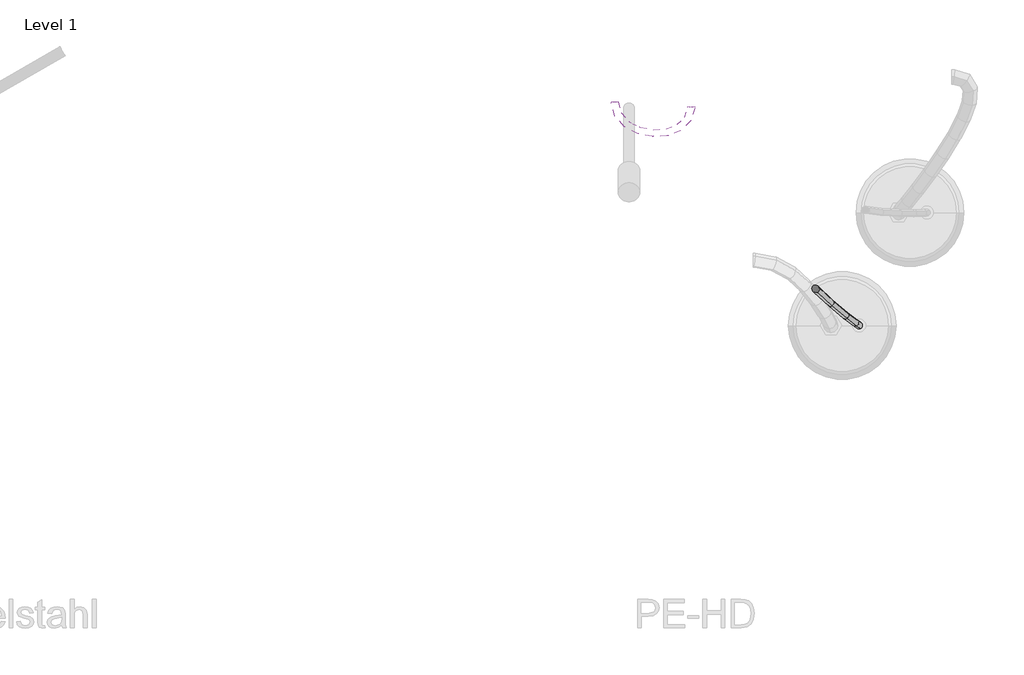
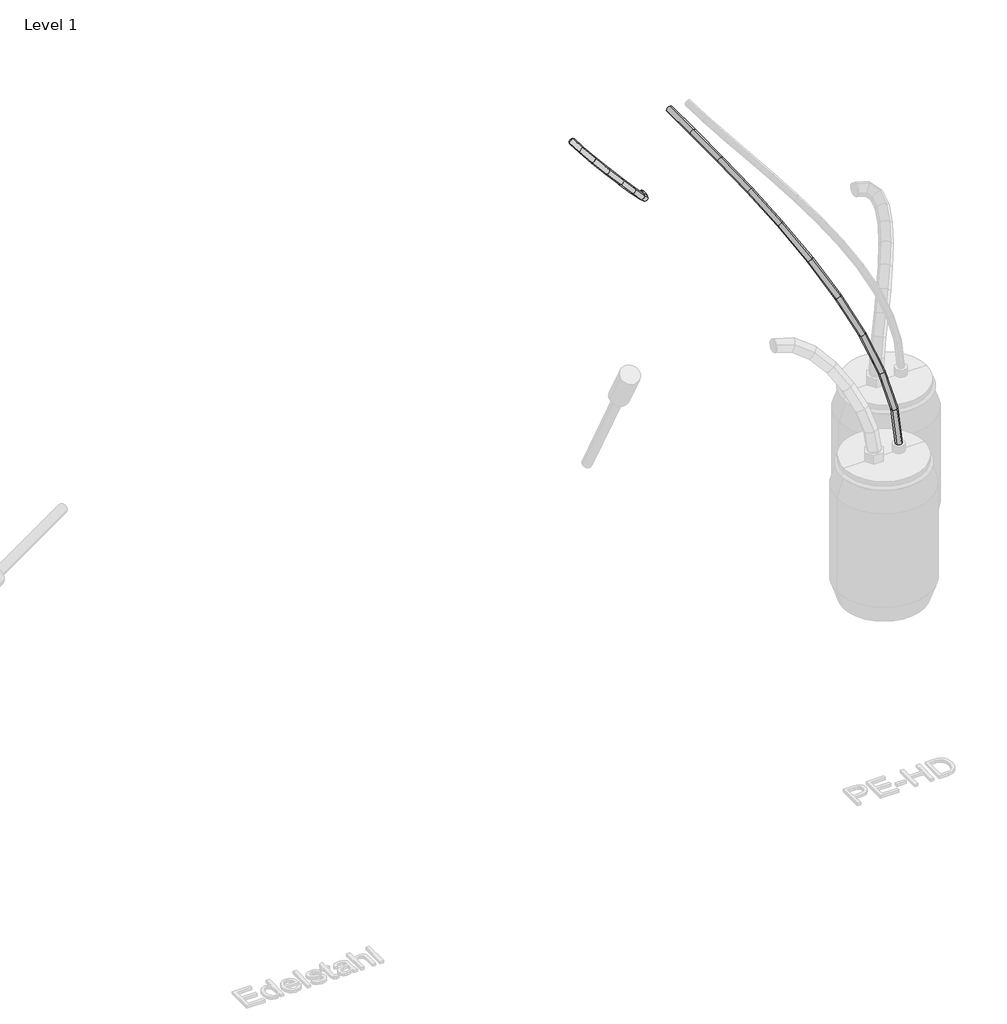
# One storey, part 2 of 6: 2 pipe segments.
"""IFC4 building model written with IfcOpenShell, lengths in millimetres."""

import ifcopenshell
import ifcopenshell.guid

model = None  # the IFC model being written
_history = None  # IfcOwnerHistory: only IFC2X3 demands one
_inside = {}  # id of a spatial element -> (the spatial element, [elements in it])
_under = {}  # id of a project, library or spatial element -> (it, [spatial elements below it])
_declared = {}  # id of a project -> (the project, [libraries it declares])
_typed = {}  # id of a type object -> (the type object, [elements of that type])
_made_of = {}  # id of a material, layer set ... -> (it, [elements and type objects made of it])


def new_model(schema):
    """Start an empty IFC model of exactly this schema.

    Asked for "IFC4X3", IfcOpenShell would pick the latest addendum, in which some entities
    have other attributes; the version numbers below select the first issue.
    IFC2X3 requires an IfcOwnerHistory on every rooted entity: one is made here for all.
    """
    global model, _history
    if schema == "IFC4X3":
        model = ifcopenshell.file(schema_version=(4, 3, 0, 0))
    else:
        model = ifcopenshell.file(schema=schema)
    _inside.clear()
    _under.clear()
    _declared.clear()
    _typed.clear()
    _made_of.clear()
    _history = None
    if model.schema == "IFC2X3":
        org = make("IfcOrganization", Name="unknown")
        user = make(
            "IfcPersonAndOrganization",
            ThePerson=make("IfcPerson", FamilyName="unknown"),
            TheOrganization=org,
        )
        app = make(
            "IfcApplication",
            ApplicationDeveloper=org,
            Version="unknown",
            ApplicationFullName="unknown",
            ApplicationIdentifier="unknown",
        )
        _history = make(
            "IfcOwnerHistory",
            OwningUser=user,
            OwningApplication=app,
            ChangeAction="ADDED",
            CreationDate=0,
        )
    return model


def make(cls, **values):
    """One entity of the class cls with the attributes given. An attribute that is None is left unset."""
    return model.create_entity(
        cls, **{name: value for name, value in values.items() if value is not None}
    )


def rooted(cls, **values):
    """An entity with a GlobalId (a new one), such as an element, a storey or a relation."""
    return make(cls, GlobalId=ifcopenshell.guid.new(), OwnerHistory=_history, **values)


def si_unit(unit_type, name, prefix=None):
    """IfcSIUnit, for example si_unit("LENGTHUNIT", "METRE", prefix="MILLI")."""
    return make("IfcSIUnit", UnitType=unit_type, Prefix=prefix, Name=name)


def assignment(units):
    """IfcUnitAssignment: the units of a project."""
    return None if units is None else make("IfcUnitAssignment", Units=units)


def point(xyz):
    """IfcCartesianPoint."""
    return None if xyz is None else make("IfcCartesianPoint", Coordinates=xyz)


def direction(xyz):
    """IfcDirection."""
    return None if xyz is None else make("IfcDirection", DirectionRatios=xyz)


def frame(location, z_axis=None, x_axis=None):
    """IfcAxis2Placement3D, a coordinate frame: its origin and axes. An axis left out is left unset."""
    return make(
        "IfcAxis2Placement3D",
        Location=point(location),
        Axis=direction(z_axis),
        RefDirection=direction(x_axis),
    )


def origin():
    """The frame at (0, 0, 0) with its axes left unset."""
    return frame((0.0, 0.0, 0.0))


def place(relative_to, where):
    """IfcLocalPlacement: puts the frame where relative to a parent placement (None: the world)."""
    return make(
        "IfcLocalPlacement", PlacementRelTo=relative_to, RelativePlacement=where
    )


def context(
    kind, dimensions, precision=None, world=None, true_north=None, identifier=None
):
    """IfcGeometricRepresentationContext, for example the 3D "Model" context."""
    return make(
        "IfcGeometricRepresentationContext",
        ContextIdentifier=identifier,
        ContextType=kind,
        CoordinateSpaceDimension=dimensions,
        Precision=precision,
        WorldCoordinateSystem=world,
        TrueNorth=true_north,
    )


def project(units=None, contexts=None):
    """IfcProject with its units and contexts."""
    return rooted(
        "IfcProject",
        Name="project",
        RepresentationContexts=contexts,
        UnitsInContext=assignment(units),
    )


def spatial(cls, under=None, at=None, **own):
    """A site, building, storey or space (cls), placed at a placement, below another one or the project."""
    s = rooted(cls, ObjectPlacement=at, **own)
    if under is not None:
        _under.setdefault(under.id(), (under, []))[1].append(s)
    return s


def circle_curve(where, radius):
    """IfcCircle in the frame where."""
    return make("IfcCircle", Position=where, Radius=radius)


def ellipse_curve(where, semi_axis1, semi_axis2):
    """IfcEllipse in the frame where."""
    return make(
        "IfcEllipse", Position=where, SemiAxis1=semi_axis1, SemiAxis2=semi_axis2
    )


def shape(context_of_items, identifier, shape_type, items):
    """IfcShapeRepresentation: the items that make up one representation, for example the "Body"."""
    return make(
        "IfcShapeRepresentation",
        ContextOfItems=context_of_items,
        RepresentationIdentifier=identifier,
        RepresentationType=shape_type,
        Items=items,
    )


def made_of(thing, what):
    """Note that an element or type object is made of a material, layer set ...; save() writes the relation."""
    if what is not None:
        _made_of.setdefault(what.id(), (what, []))[1].append(thing)
    return thing


def element(
    cls,
    number,
    at=None,
    inside=None,
    cuts=None,
    type_object=None,
    material=None,
    context=None,
    identifier="Body",
    shape_type=None,
    held_by="IfcProductDefinitionShape",
    body=None,
    shapes=None,
    **own,
):
    """One element of the class cls, such as IfcWall. Its Tag is "e" and its number.

    at: its placement. inside: the storey or other place that contains it. cuts: it is an
    opening in that element (IfcRelVoidsElement). A single representation is given by context,
    identifier, shape_type and body (its items); several are given by shapes. held_by: the class
    of the entity that holds the representations. save() writes the other relations.
    """
    e = rooted(cls, Tag="e%d" % number, ObjectPlacement=at, **own)
    if body is not None:
        shapes = [shape(context, identifier, shape_type, body)]
    if shapes is not None:
        e.Representation = make(held_by, Representations=shapes)
    if inside is not None:
        _inside.setdefault(inside.id(), (inside, []))[1].append(e)
    if cuts is not None:
        rooted(
            "IfcRelVoidsElement", RelatingBuildingElement=cuts, RelatedOpeningElement=e
        )
    if type_object is not None:
        _typed.setdefault(type_object.id(), (type_object, []))[1].append(e)
    return made_of(e, material)


def aggregate(whole, parts):
    """IfcRelAggregates: a whole, such as a stair, and the parts it consists of."""
    return rooted("IfcRelAggregates", RelatingObject=whole, RelatedObjects=parts)


def save(model, path):
    """Write the relations noted so far, then the file.

    IfcRelAggregates (storeys below a building ...), IfcRelContainedInSpatialStructure (elements
    in a storey), IfcRelDefinesByType, IfcRelAssociatesMaterial and IfcRelDeclares: one each for
    every whole, place, type object, material and project.
    """
    for whole, parts in _under.values():
        aggregate(whole, parts)
    for where, things in _inside.values():
        rooted(
            "IfcRelContainedInSpatialStructure",
            RelatedElements=things,
            RelatingStructure=where,
        )
    for kind, things in _typed.values():
        rooted("IfcRelDefinesByType", RelatedObjects=things, RelatingType=kind)
    for what, things in _made_of.values():
        rooted("IfcRelAssociatesMaterial", RelatedObjects=things, RelatingMaterial=what)
    for by, libraries in _declared.values():
        rooted("IfcRelDeclares", RelatingContext=by, RelatedDefinitions=libraries)
    model.write(path)


def plane_surface(at):
    """IfcPlane: the flat surface through the origin of the frame at, square to its z axis."""
    return make("IfcPlane", Position=at)


def cylinder_surface(at, radius):
    """IfcCylindricalSurface: all points at the distance radius from the z axis of the frame at."""
    return make("IfcCylindricalSurface", Position=at, Radius=radius)


def advanced_brep(points, edges, surfaces, faces):
    """IfcAdvancedBrep: a solid bounded by faces that lie on surfaces and meet in shared edges.

    An edge is (start, end): straight between two places in points (the first is 0);
    or (start, end, curve); or (start, end, curve, False) where it runs against its curve.
    A face is (place in surfaces, loops), or (place, loops, False) where it looks against
    its surface's normal. A loop lists edges by number (the first is 1), with a minus sign
    where the edge is run from its end to its start. The first loop is the outer one.
    """
    corners = [point(p) for p in points]
    vertices = [make("IfcVertexPoint", VertexGeometry=c) for c in corners]
    made = []
    for start, end, *more in edges:
        made.append(
            make(
                "IfcEdgeCurve",
                EdgeStart=vertices[start],
                EdgeEnd=vertices[end],
                EdgeGeometry=more[0] if more else make("IfcPolyline", Points=[corners[start], corners[end]]),
                SameSense=more[1] if len(more) > 1 else True,
            )
        )
    hull = []
    for where, loops, *sense in faces:
        bounds = []
        for j, loop in enumerate(loops):
            ring = [make("IfcOrientedEdge", EdgeElement=made[abs(k) - 1], Orientation=k > 0) for k in loop]
            bounds.append(
                make(
                    "IfcFaceOuterBound" if j == 0 else "IfcFaceBound",
                    Bound=make("IfcEdgeLoop", EdgeList=ring),
                    Orientation=True,
                )
            )
        hull.append(make("IfcAdvancedFace", Bounds=bounds, FaceSurface=surfaces[where], SameSense=sense[0] if sense else True))
    return make("IfcAdvancedBrep", Outer=make("IfcClosedShell", CfsFaces=hull))


model = new_model("IFC4")

# Units and contexts
model_context = context("Model", 3, world=origin())
ifc_project = project(units=[si_unit("LENGTHUNIT", "METRE", prefix="MILLI")], contexts=[model_context])

# Site, building, storey
site = spatial("IfcSite", under=ifc_project)
building = spatial("IfcBuilding", under=site)
storey = spatial("IfcBuildingStorey", under=building, Name="Level 1", Elevation=0.0)

# Pipe segments
placement = place(None, origin())
element("IfcPipeSegment", 1, ObjectType="Flex - Round", at=placement, inside=storey, context=model_context, shape_type="AdvancedBrep", body=[
    advanced_brep(
    [(2197.5, 3245.0, 1433.0), (2185.0, 3245.0, 1420.5), (2172.5, 3245.0, 1433.0), (2185.0, 3245.0, 1445.5), (2197.5, 3239.8098259, 1433.0), (2185.0, 3239.5752926, 1420.5), (2172.5, 3243.2327444, 1433.0), (2185.0, 3243.4672777, 1445.5), (1916.5965546, 3262.0, 1752.3976213), (1927.3976213, 3262.0, 1738.4034454), (1913.4034454, 3262.0, 1727.6023787), (1902.6023787, 3262.0, 1741.5965546), (2184.7946426, 3195.4060058, 1447.4464619), (2172.1433818, 3194.6428328, 1435.118451), (2162.0022324, 3206.5442066, 1444.9363506), (2174.6534932, 3207.3073796, 1457.2643615), (2152.0679457, 3163.2609591, 1484.6579284), (2139.1233216, 3162.2096367, 1472.6634825), (2133.5570543, 3178.6045834, 1477.2795716), (2146.5016784, 3179.6559058, 1489.2740175), (2107.4099086, 3146.2638656, 1535.4357706), (2094.2712607, 3145.1386966, 1523.661937), (2091.7307164, 3162.6852501, 1524.8376669), (2104.8693643, 3163.8104191, 1536.6115005), (2056.8225983, 3142.924196, 1592.955416), (2043.544584, 3141.7898264, 1581.3400471), (2043.1774017, 3159.4798607, 1580.044584), (2056.455416, 3160.6142304, 1591.6599529), (2006.2586689, 3152.6296316, 1650.4484764), (1992.8444923, 3151.5213975, 1638.9879291), (1994.6007061, 3168.8038591, 1635.2780861), (2008.0148827, 3169.9120932, 1646.7386334), (1961.7011989, 3175.1993895, 1701.1119701), (1948.1067799, 3174.1824538, 1689.8563651), (1952.6738011, 3190.0411531, 1682.9505299), (1966.2682201, 3191.0580887, 1694.2061349), (1929.2037183, 3211.211569, 1738.0628091), (1915.3473471, 3210.4849164, 1727.1050535), (1923.9994067, 3221.8167684, 1715.5543784), (1937.8557779, 3222.5434209, 1726.512134), (1916.5965546, 3256.9652115, 1752.3976213), (1902.6023787, 3256.7386764, 1741.5965546), (1913.4034454, 3260.2713987, 1727.6023787), (1927.3976213, 3260.4979337, 1738.4034454)],
    [
        (0, 1, circle_curve(frame((2185.0, 3245.0, 1433.0), z_axis=(0.0, 1.0, 0.0), x_axis=(1.0, 0.0, 0.0)), 12.5)),
        (1, 2, circle_curve(frame((2185.0, 3245.0, 1433.0), z_axis=(0.0, 1.0, 0.0), x_axis=(1.0, 0.0, 0.0)), 12.5)),
        (2, 3, circle_curve(frame((2185.0, 3245.0, 1433.0), z_axis=(0.0, 1.0, 0.0), x_axis=(1.0, 0.0, 0.0)), 12.5)),
        (3, 0, circle_curve(frame((2185.0, 3245.0, 1433.0), z_axis=(0.0, 1.0, 0.0), x_axis=(1.0, 0.0, 0.0)), 12.5)),
        (0, 4),
        (4, 5, ellipse_curve(frame((2185.0, 3241.5212852, 1433.0), z_axis=(0.13406582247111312, 0.9791777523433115, -0.15243780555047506), x_axis=(-0.646656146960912, 0.203004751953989, 0.7352719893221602)), 12.7658129, 12.5)),
        (5, 1),
        (5, 6, ellipse_curve(frame((2185.0, 3241.5212852, 1433.0), z_axis=(0.13406582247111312, 0.9791777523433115, -0.15243780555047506), x_axis=(-0.646656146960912, 0.203004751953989, 0.7352719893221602)), 12.7658129, 12.5)),
        (6, 2),
        (6, 7, ellipse_curve(frame((2185.0, 3241.5212852, 1433.0), z_axis=(0.13406582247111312, 0.9791777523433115, -0.15243780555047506), x_axis=(-0.646656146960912, 0.203004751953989, 0.7352719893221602)), 12.7658129, 12.5)),
        (7, 3),
        (7, 4, ellipse_curve(frame((2185.0, 3241.5212852, 1433.0), z_axis=(0.13406582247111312, 0.9791777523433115, -0.15243780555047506), x_axis=(-0.646656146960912, 0.203004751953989, 0.7352719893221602)), 12.7658129, 12.5)),
        (8, 9, circle_curve(frame((1915.0, 3262.0, 1740.0), z_axis=(0.0, 1.0, 0.0), x_axis=(0.12772436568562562, 0.0, 0.9918097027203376)), 12.5)),
        (9, 10, circle_curve(frame((1915.0, 3262.0, 1740.0), z_axis=(0.0, 1.0, 0.0), x_axis=(0.12772436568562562, 0.0, 0.9918097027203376)), 12.5)),
        (10, 11, circle_curve(frame((1915.0, 3262.0, 1740.0), z_axis=(0.0, 1.0, 0.0), x_axis=(0.12772436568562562, 0.0, 0.9918097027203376)), 12.5)),
        (11, 8, circle_curve(frame((1915.0, 3262.0, 1740.0), z_axis=(0.0, 1.0, 0.0), x_axis=(0.12772436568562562, 0.0, 0.9918097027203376)), 12.5)),
        (4, 12),
        (12, 13, ellipse_curve(frame((2173.3984375, 3200.9751062, 1446.1914062), z_axis=(0.4265078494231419, 0.76348509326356, -0.48495522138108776), x_axis=(-0.5042111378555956, 0.6458254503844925, 0.5733067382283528)), 13.0574394, 12.5)),
        (13, 5),
        (13, 14, ellipse_curve(frame((2173.3984375, 3200.9751062, 1446.1914062), z_axis=(0.4265078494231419, 0.76348509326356, -0.48495522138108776), x_axis=(-0.5042111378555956, 0.6458254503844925, 0.5733067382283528)), 13.0574394, 12.5)),
        (14, 6),
        (14, 15, ellipse_curve(frame((2173.3984375, 3200.9751062, 1446.1914062), z_axis=(0.4265078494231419, 0.76348509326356, -0.48495522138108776), x_axis=(-0.5042111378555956, 0.6458254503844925, 0.5733067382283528)), 13.0574394, 12.5)),
        (15, 7),
        (15, 12, ellipse_curve(frame((2173.3984375, 3200.9751062, 1446.1914062), z_axis=(0.4265078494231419, 0.76348509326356, -0.48495522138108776), x_axis=(-0.5042111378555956, 0.6458254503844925, 0.5733067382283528)), 13.0574394, 12.5)),
        (12, 16),
        (16, 17, ellipse_curve(frame((2142.8125, 3170.9327713, 1480.96875), z_axis=(0.6054502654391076, 0.3993854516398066, -0.6884193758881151), x_axis=(-0.2637570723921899, 0.9167831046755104, 0.2999015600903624)), 12.6712508, 12.5)),
        (17, 13),
        (17, 18, ellipse_curve(frame((2142.8125, 3170.9327713, 1480.96875), z_axis=(0.6054502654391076, 0.3993854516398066, -0.6884193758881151), x_axis=(-0.2637570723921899, 0.9167831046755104, 0.2999015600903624)), 12.6712508, 12.5)),
        (18, 14),
        (18, 19, ellipse_curve(frame((2142.8125, 3170.9327713, 1480.96875), z_axis=(0.6054502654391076, 0.3993854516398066, -0.6884193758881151), x_axis=(-0.2637570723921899, 0.9167831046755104, 0.2999015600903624)), 12.6712508, 12.5)),
        (19, 15),
        (19, 16, ellipse_curve(frame((2142.8125, 3170.9327713, 1480.96875), z_axis=(0.6054502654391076, 0.3993854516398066, -0.6884193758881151), x_axis=(-0.2637570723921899, 0.9167831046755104, 0.2999015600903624)), 12.6712508, 12.5)),
        (16, 20),
        (20, 21, ellipse_curve(frame((2099.5703125, 3154.4745578, 1530.1367188), z_axis=(0.6534853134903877, 0.14440552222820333, -0.7430370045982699), x_axis=(-0.09536646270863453, 0.989518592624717, 0.10843520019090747)), 12.5644634, 12.5)),
        (21, 17),
        (21, 22, ellipse_curve(frame((2099.5703125, 3154.4745578, 1530.1367188), z_axis=(0.6534853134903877, 0.14440552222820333, -0.7430370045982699), x_axis=(-0.09536646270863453, 0.989518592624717, 0.10843520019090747)), 12.5644634, 12.5)),
        (22, 18),
        (22, 23, ellipse_curve(frame((2099.5703125, 3154.4745578, 1530.1367188), z_axis=(0.6534853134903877, 0.14440552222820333, -0.7430370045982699), x_axis=(-0.09536646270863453, 0.989518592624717, 0.10843520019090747)), 12.5644634, 12.5)),
        (23, 19),
        (23, 20, ellipse_curve(frame((2099.5703125, 3154.4745578, 1530.1367188), z_axis=(0.6534853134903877, 0.14440552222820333, -0.7430370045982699), x_axis=(-0.09536646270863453, 0.989518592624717, 0.10843520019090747)), 12.5644634, 12.5)),
        (20, 24),
        (24, 25, ellipse_curve(frame((2050.0, 3151.2020284, 1586.5), z_axis=(0.6598452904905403, -0.041247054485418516, -0.7502685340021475), x_axis=(0.027239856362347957, 0.9991489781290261, -0.030972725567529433)), 12.5451109, 12.5)),
        (25, 21),
        (25, 26, ellipse_curve(frame((2050.0, 3151.2020284, 1586.5), z_axis=(0.6598452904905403, -0.041247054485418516, -0.7502685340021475), x_axis=(0.027239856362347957, 0.9991489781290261, -0.030972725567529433)), 12.5451109, 12.5)),
        (26, 22),
        (26, 27, ellipse_curve(frame((2050.0, 3151.2020284, 1586.5), z_axis=(0.6598452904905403, -0.041247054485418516, -0.7502685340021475), x_axis=(0.027239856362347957, 0.9991489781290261, -0.030972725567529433)), 12.5451109, 12.5)),
        (27, 23),
        (27, 24, ellipse_curve(frame((2050.0, 3151.2020284, 1586.5), z_axis=(0.6598452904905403, -0.041247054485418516, -0.7502685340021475), x_axis=(0.027239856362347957, 0.9991489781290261, -0.030972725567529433)), 12.5451109, 12.5)),
        (24, 28),
        (28, 29, ellipse_curve(frame((2000.4296875, 3160.7167453, 1642.8632813), z_axis=(0.6438417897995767, -0.22257222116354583, -0.7320719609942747), x_axis=(0.14698832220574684, 0.9749162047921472, -0.1671311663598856)), 12.5607158, 12.5)),
        (29, 25),
        (29, 30, ellipse_curve(frame((2000.4296875, 3160.7167453, 1642.8632813), z_axis=(0.6438417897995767, -0.22257222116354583, -0.7320719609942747), x_axis=(0.14698832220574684, 0.9749162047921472, -0.1671311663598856)), 12.5607158, 12.5)),
        (30, 26),
        (30, 31, ellipse_curve(frame((2000.4296875, 3160.7167453, 1642.8632813), z_axis=(0.6438417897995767, -0.22257222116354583, -0.7320719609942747), x_axis=(0.14698832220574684, 0.9749162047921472, -0.1671311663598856)), 12.5607158, 12.5)),
        (31, 27),
        (31, 28, ellipse_curve(frame((2000.4296875, 3160.7167453, 1642.8632813), z_axis=(0.6438417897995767, -0.22257222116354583, -0.7320719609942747), x_axis=(0.14698832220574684, 0.9749162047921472, -0.1671311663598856)), 12.5607158, 12.5)),
        (28, 32),
        (32, 33, ellipse_curve(frame((1957.1875, 3182.6202713, 1692.03125), z_axis=(0.5866010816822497, -0.459377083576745, -0.6669871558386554), x_axis=(0.3033759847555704, 0.8882413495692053, -0.3449497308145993)), 12.6506446, 12.5)),
        (33, 29),
        (33, 34, ellipse_curve(frame((1957.1875, 3182.6202713, 1692.03125), z_axis=(0.5866010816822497, -0.459377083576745, -0.6669871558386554), x_axis=(0.3033759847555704, 0.8882413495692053, -0.3449497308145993)), 12.6506446, 12.5)),
        (34, 30),
        (34, 35, ellipse_curve(frame((1957.1875, 3182.6202713, 1692.03125), z_axis=(0.5866010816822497, -0.459377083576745, -0.6669871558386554), x_axis=(0.3033759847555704, 0.8882413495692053, -0.3449497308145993)), 12.6506446, 12.5)),
        (35, 31),
        (35, 32, ellipse_curve(frame((1957.1875, 3182.6202713, 1692.03125), z_axis=(0.5866010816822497, -0.459377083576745, -0.6669871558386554), x_axis=(0.3033759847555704, 0.8882413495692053, -0.3449497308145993)), 12.6506446, 12.5)),
        (32, 36),
        (36, 37, ellipse_curve(frame((1926.6015625, 3216.5141687, 1726.8085938), z_axis=(0.40862644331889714, -0.7855886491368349, -0.4646234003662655), x_axis=(0.5188084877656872, 0.6187491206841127, -0.589904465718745)), 12.9766436, 12.5)),
        (37, 33),
        (37, 38, ellipse_curve(frame((1926.6015625, 3216.5141687, 1726.8085938), z_axis=(0.40862644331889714, -0.7855886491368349, -0.4646234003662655), x_axis=(0.5188084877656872, 0.6187491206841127, -0.589904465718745)), 12.9766436, 12.5)),
        (38, 34),
        (38, 39, ellipse_curve(frame((1926.6015625, 3216.5141687, 1726.8085938), z_axis=(0.40862644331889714, -0.7855886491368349, -0.4646234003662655), x_axis=(0.5188084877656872, 0.6187491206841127, -0.589904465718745)), 12.9766436, 12.5)),
        (39, 35),
        (39, 36, ellipse_curve(frame((1926.6015625, 3216.5141687, 1726.8085938), z_axis=(0.40862644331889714, -0.7855886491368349, -0.4646234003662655), x_axis=(0.5188084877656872, 0.6187491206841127, -0.589904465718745)), 12.9766436, 12.5)),
        (36, 40),
        (40, 41, ellipse_curve(frame((1915.0, 3258.6183051, 1740.0), z_axis=(0.12967305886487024, -0.9805332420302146, -0.1474430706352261), x_axis=(0.6475513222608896, 0.19635315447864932, -0.7362898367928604)), 12.7481655, 12.5)),
        (41, 37),
        (41, 42, ellipse_curve(frame((1915.0, 3258.6183051, 1740.0), z_axis=(0.12967305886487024, -0.9805332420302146, -0.1474430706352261), x_axis=(0.6475513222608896, 0.19635315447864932, -0.7362898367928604)), 12.7481655, 12.5)),
        (42, 38),
        (42, 43, ellipse_curve(frame((1915.0, 3258.6183051, 1740.0), z_axis=(0.12967305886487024, -0.9805332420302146, -0.1474430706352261), x_axis=(0.6475513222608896, 0.19635315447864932, -0.7362898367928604)), 12.7481655, 12.5)),
        (43, 39),
        (43, 40, ellipse_curve(frame((1915.0, 3258.6183051, 1740.0), z_axis=(0.12967305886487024, -0.9805332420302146, -0.1474430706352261), x_axis=(0.6475513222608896, 0.19635315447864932, -0.7362898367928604)), 12.7481655, 12.5)),
        (40, 8),
        (11, 41),
        (10, 42),
        (9, 43),
    ],
    [
        plane_surface(frame((2172.5, 3245.0, 1433.0), z_axis=(0.0, 1.0, 0.0), x_axis=(0.0, 0.0, -1.0))),
        cylinder_surface(frame((2185.0, 3245.0, 1433.0), z_axis=(0.0, 1.0, 0.0), x_axis=(1.0, 0.0, 0.0)), 12.5),
        plane_surface(frame((1902.5, 3262.0, 1740.0), z_axis=(0.0, 1.0, 0.0), x_axis=(0.0, 0.0, 1.0))),
        cylinder_surface(frame((2185.0, 3241.5212852, 1433.0), z_axis=(0.26254854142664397, 0.917578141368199, -0.2985274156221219), x_axis=(0.964052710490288, -0.26254854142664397, 0.04087339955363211)), 12.5),
        cylinder_surface(frame((2173.3984375, 3200.9751062, 1446.1914062), z_axis=(0.554050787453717, 0.5442036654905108, -0.6299762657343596), x_axis=(0.801209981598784, -0.5540507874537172, 0.226031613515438)), 12.5),
        cylinder_surface(frame((2142.8125, 3170.9327713, 1480.96875), z_axis=(0.6404845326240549, 0.2437719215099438, -0.7282546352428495), x_axis=(0.6701803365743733, -0.6404845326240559, 0.3750171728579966)), 12.5),
        cylinder_surface(frame((2099.5703125, 3154.4745578, 1530.1367188), z_axis=(0.6597805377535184, 0.0435573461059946, -0.7501949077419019), x_axis=(0.582859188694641, -0.6597805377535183, 0.47430455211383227)), 12.5),
        cylinder_surface(frame((2050.0, 3151.2020284, 1586.5), z_axis=(0.6551645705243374, -0.12575481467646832, -0.7449463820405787), x_axis=(0.5090157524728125, -0.6551645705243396, 0.558267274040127)), 12.5),
        cylinder_surface(frame((2000.4296875, 3160.7167453, 1642.8632813), z_axis=(0.6262946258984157, -0.31723789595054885, -0.7121201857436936), x_axis=(0.4255027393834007, -0.626294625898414, 0.6532246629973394)), 12.5),
        cylinder_surface(frame((1957.1875, 3182.6202713, 1692.03125), z_axis=(0.532936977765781, -0.5905756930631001, -0.6059690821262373), x_axis=(0.3062897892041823, -0.5329369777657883, 0.7887742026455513)), 12.5),
        cylinder_surface(frame((1926.6015625, 3216.5141687, 1726.8085938), z_axis=(0.25429748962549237, -0.9228908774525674, -0.28914566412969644), x_axis=(0.16135457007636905, -0.2542974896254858, 0.9535709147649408)), 12.5),
        cylinder_surface(frame((1915.0, 3258.6183051, 1740.0), z_axis=(0.0, -1.0, 0.0), x_axis=(0.12772436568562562, 0.0, 0.9918097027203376)), 12.5),
    ],
    [
        (0, [[1, 2, 3, 4]]),
        (1, [[-1, 5, 6, 7]]),
        (1, [[-2, -7, 8, 9]]),
        (1, [[-3, -9, 10, 11]]),
        (1, [[-4, -11, 12, -5]]),
        (2, [[13, 14, 15, 16]]),
        (3, [[-6, 17, 18, 19]]),
        (3, [[-8, -19, 20, 21]]),
        (3, [[-10, -21, 22, 23]]),
        (3, [[-12, -23, 24, -17]]),
        (4, [[-18, 25, 26, 27]]),
        (4, [[-20, -27, 28, 29]]),
        (4, [[-22, -29, 30, 31]]),
        (4, [[-24, -31, 32, -25]]),
        (5, [[-26, 33, 34, 35]]),
        (5, [[-28, -35, 36, 37]]),
        (5, [[-30, -37, 38, 39]]),
        (5, [[-32, -39, 40, -33]]),
        (6, [[-34, 41, 42, 43]]),
        (6, [[-36, -43, 44, 45]]),
        (6, [[-38, -45, 46, 47]]),
        (6, [[-40, -47, 48, -41]]),
        (7, [[-42, 49, 50, 51]]),
        (7, [[-44, -51, 52, 53]]),
        (7, [[-46, -53, 54, 55]]),
        (7, [[-48, -55, 56, -49]]),
        (8, [[-50, 57, 58, 59]]),
        (8, [[-52, -59, 60, 61]]),
        (8, [[-54, -61, 62, 63]]),
        (8, [[-56, -63, 64, -57]]),
        (9, [[-58, 65, 66, 67]]),
        (9, [[-60, -67, 68, 69]]),
        (9, [[-62, -69, 70, 71]]),
        (9, [[-64, -71, 72, -65]]),
        (10, [[-66, 73, 74, 75]]),
        (10, [[-68, -75, 76, 77]]),
        (10, [[-70, -77, 78, 79]]),
        (10, [[-72, -79, 80, -73]]),
        (11, [[-74, 81, -16, 82]]),
        (11, [[-76, -82, -15, 83]]),
        (11, [[-78, -83, -14, 84]]),
        (11, [[-80, -84, -13, -81]]),
    ],
),
])
element("IfcPipeSegment", 2, ObjectType="Flex - Round", at=placement, inside=storey, context=model_context, shape_type="AdvancedBrep", body=[
    advanced_brep(
    [(2322.4444711, 3263.1769193, 1740.0), (2309.848452, 3263.6024332, 1727.6040635), (2297.5555289, 3260.8230807, 1740.0), (2310.151548, 3260.3975668, 1752.3959365), (2335.5061145, 3125.0661378, 1721.9866155), (2322.8659732, 3125.9581898, 1709.6515282), (2310.8138855, 3120.6323004, 1721.7153274), (2323.4540268, 3119.7402483, 1734.0504146), (2791.2875626, 2475.3280788, 628.3074562), (2785.2556493, 2458.7186648, 628.8007998), (2768.7124374, 2464.6719212, 626.962084), (2774.7443507, 2481.2813352, 626.4687405), (2370.7699568, 2998.635336, 1671.3173548), (2357.8876976, 3000.3954489, 1659.3301575), (2346.9900432, 2990.9305909, 1669.7351956), (2359.8723024, 2989.170478, 1681.722393), (2422.9658123, 2883.4727476, 1592.1740209), (2409.7350534, 2886.0017745, 1580.7152452), (2400.0741877, 2873.8081216, 1589.2449702), (2413.3049466, 2871.2790947, 1600.7037458), (2486.5651983, 2780.6116849, 1489.0685121), (2472.9217366, 2783.8081875, 1478.2787985), (2464.3148017, 2769.9099828, 1485.0999208), (2477.9582634, 2766.7134803, 1495.8896345), (2555.9428506, 2691.0695604, 1366.6401007), (2541.8351633, 2694.8652149, 1356.6695905), (2534.0571494, 2679.8971651, 1362.0279439), (2548.1648367, 2676.1015106, 1371.9984541), (2625.4444626, 2615.7966567, 1229.5637329), (2610.8178892, 2620.1542846, 1220.6166092), (2603.6755374, 2604.4977885, 1224.7212614), (2618.3021108, 2600.1401605, 1233.6683851), (2689.4124452, 2555.6959673, 1082.5041511), (2674.2083926, 2560.5961619, 1074.8846267), (2667.5475548, 2544.4872624, 1077.8822993), (2682.7516074, 2539.5870678, 1085.5018237), (2742.1861364, 2511.6485081, 930.0946183), (2726.3611444, 2517.0669687, 924.2683569), (2720.0538636, 2500.6629736, 926.2449628), (2735.8788556, 2495.244513, 932.0712243), (2778.0835851, 2484.5375542, 776.9234479), (2761.6724427, 2490.3986951, 773.5982368), (2755.5964149, 2473.82005, 774.5881071), (2772.0075573, 2467.9589091, 777.9133182)],
    [
        (0, 1, circle_curve(frame((2310.0, 3262.0, 1740.0), z_axis=(-0.09336970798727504, 0.9872695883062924, 0.1287666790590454), x_axis=(0.9955576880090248, 0.09415354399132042, 0.0)), 12.5)),
        (1, 2, circle_curve(frame((2310.0, 3262.0, 1740.0), z_axis=(-0.09336970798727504, 0.9872695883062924, 0.1287666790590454), x_axis=(0.9955576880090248, 0.09415354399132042, 0.0)), 12.5)),
        (2, 3, circle_curve(frame((2310.0, 3262.0, 1740.0), z_axis=(-0.09336970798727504, 0.9872695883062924, 0.1287666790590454), x_axis=(0.9955576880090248, 0.09415354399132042, 0.0)), 12.5)),
        (3, 0, circle_curve(frame((2310.0, 3262.0, 1740.0), z_axis=(-0.09336970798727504, 0.9872695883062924, 0.1287666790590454), x_axis=(0.9955576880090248, 0.09415354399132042, 0.0)), 12.5)),
        (0, 4),
        (4, 5, ellipse_curve(frame((2323.16, 3122.8492191, 1721.8509714), z_axis=(-0.17388533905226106, 0.9532543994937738, 0.24712332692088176), x_axis=(0.5358905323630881, 0.30213303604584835, -0.7883761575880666)), 12.6367811, 12.5)),
        (5, 1),
        (5, 6, ellipse_curve(frame((2323.16, 3122.8492191, 1721.8509714), z_axis=(-0.17388533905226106, 0.9532543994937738, 0.24712332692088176), x_axis=(0.5358905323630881, 0.30213303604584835, -0.7883761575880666)), 12.6367811, 12.5)),
        (6, 2),
        (6, 7, ellipse_curve(frame((2323.16, 3122.8492191, 1721.8509714), z_axis=(-0.17388533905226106, 0.9532543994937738, 0.24712332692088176), x_axis=(0.5358905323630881, 0.30213303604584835, -0.7883761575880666)), 12.6367811, 12.5)),
        (7, 3),
        (7, 4, ellipse_curve(frame((2323.16, 3122.8492191, 1721.8509714), z_axis=(-0.17388533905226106, 0.9532543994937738, 0.24712332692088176), x_axis=(0.5358905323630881, 0.30213303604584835, -0.7883761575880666)), 12.6367811, 12.5)),
        (8, 9, circle_curve(frame((2780.0, 2470.0, 627.6347701), z_axis=(0.08832957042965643, -0.06160787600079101, -0.9941842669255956), x_axis=(0.9030050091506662, 0.42624630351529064, 0.05381488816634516)), 12.5)),
        (9, 10, circle_curve(frame((2780.0, 2470.0, 627.6347701), z_axis=(0.08832957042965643, -0.06160787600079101, -0.9941842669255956), x_axis=(0.9030050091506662, 0.42624630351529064, 0.05381488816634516)), 12.5)),
        (10, 11, circle_curve(frame((2780.0, 2470.0, 627.6347701), z_axis=(0.08832957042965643, -0.06160787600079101, -0.9941842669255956), x_axis=(0.9030050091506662, 0.42624630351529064, 0.05381488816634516)), 12.5)),
        (11, 8, circle_curve(frame((2780.0, 2470.0, 627.6347701), z_axis=(0.08832957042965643, -0.06160787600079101, -0.9941842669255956), x_axis=(0.9030050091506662, 0.42624630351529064, 0.05381488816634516)), 12.5)),
        (4, 12),
        (12, 13, ellipse_curve(frame((2358.88, 2994.7829635, 1670.5262752), z_axis=(-0.3023603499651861, 0.8411178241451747, 0.4484406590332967), x_axis=(0.4236268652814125, 0.5400234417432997, -0.7272653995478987)), 12.5867138, 12.5)),
        (13, 5),
        (13, 14, ellipse_curve(frame((2358.88, 2994.7829635, 1670.5262752), z_axis=(-0.3023603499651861, 0.8411178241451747, 0.4484406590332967), x_axis=(0.4236268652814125, 0.5400234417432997, -0.7272653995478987)), 12.5867138, 12.5)),
        (14, 6),
        (14, 15, ellipse_curve(frame((2358.88, 2994.7829635, 1670.5262752), z_axis=(-0.3023603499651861, 0.8411178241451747, 0.4484406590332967), x_axis=(0.4236268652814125, 0.5400234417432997, -0.7272653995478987)), 12.5867138, 12.5)),
        (15, 7),
        (15, 12, ellipse_curve(frame((2358.88, 2994.7829635, 1670.5262752), z_axis=(-0.3023603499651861, 0.8411178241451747, 0.4484406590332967), x_axis=(0.4236268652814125, 0.5400234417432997, -0.7272653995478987)), 12.5867138, 12.5)),
        (12, 16),
        (16, 17, ellipse_curve(frame((2411.52, 2878.6404346, 1590.7094955), z_axis=(-0.3765687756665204, 0.7125064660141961, 0.592056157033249), x_axis=(0.2807175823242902, 0.6968166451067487, -0.6600334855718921)), 12.5504223, 12.5)),
        (17, 13),
        (17, 18, ellipse_curve(frame((2411.52, 2878.6404346, 1590.7094955), z_axis=(-0.3765687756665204, 0.7125064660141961, 0.592056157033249), x_axis=(0.2807175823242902, 0.6968166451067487, -0.6600334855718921)), 12.5504223, 12.5)),
        (18, 14),
        (18, 19, ellipse_curve(frame((2411.52, 2878.6404346, 1590.7094955), z_axis=(-0.3765687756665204, 0.7125064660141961, 0.592056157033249), x_axis=(0.2807175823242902, 0.6968166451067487, -0.6600334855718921)), 12.5504223, 12.5)),
        (19, 15),
        (19, 16, ellipse_curve(frame((2411.52, 2878.6404346, 1590.7094955), z_axis=(-0.3765687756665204, 0.7125064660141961, 0.592056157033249), x_axis=(0.2807175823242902, 0.6968166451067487, -0.6600334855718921)), 12.5504223, 12.5)),
        (16, 20),
        (20, 21, ellipse_curve(frame((2475.44, 2775.2608339, 1487.0842165), z_axis=(-0.409081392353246, 0.5935092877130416, 0.6931083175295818), x_axis=(0.11226798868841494, 0.7865379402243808, -0.6072511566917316)), 12.5308964, 12.5)),
        (21, 17),
        (21, 22, ellipse_curve(frame((2475.44, 2775.2608339, 1487.0842165), z_axis=(-0.409081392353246, 0.5935092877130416, 0.6931083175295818), x_axis=(0.11226798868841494, 0.7865379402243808, -0.6072511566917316)), 12.5308964, 12.5)),
        (22, 18),
        (22, 23, ellipse_curve(frame((2475.44, 2775.2608339, 1487.0842165), z_axis=(-0.409081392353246, 0.5935092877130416, 0.6931083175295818), x_axis=(0.11226798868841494, 0.7865379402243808, -0.6072511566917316)), 12.5308964, 12.5)),
        (23, 19),
        (23, 20, ellipse_curve(frame((2475.44, 2775.2608339, 1487.0842165), z_axis=(-0.409081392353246, 0.5935092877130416, 0.6931083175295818), x_axis=(0.11226798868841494, 0.7865379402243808, -0.6072511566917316)), 12.5308964, 12.5)),
        (20, 24),
        (24, 25, ellipse_curve(frame((2545.0, 2685.4833628, 1364.3340223), z_axis=(-0.41176002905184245, 0.4892053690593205, 0.7688509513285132), x_axis=(-0.08306120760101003, 0.8200337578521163, -0.5662556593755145)), 12.5219183, 12.5)),
        (25, 21),
        (25, 26, ellipse_curve(frame((2545.0, 2685.4833628, 1364.3340223), z_axis=(-0.41176002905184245, 0.4892053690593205, 0.7688509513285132), x_axis=(-0.08306120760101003, 0.8200337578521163, -0.5662556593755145)), 12.5219183, 12.5)),
        (26, 22),
        (26, 27, ellipse_curve(frame((2545.0, 2685.4833628, 1364.3340223), z_axis=(-0.41176002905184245, 0.4892053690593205, 0.7688509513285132), x_axis=(-0.08306120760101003, 0.8200337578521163, -0.5662556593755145)), 12.5219183, 12.5)),
        (27, 23),
        (27, 24, ellipse_curve(frame((2545.0, 2685.4833628, 1364.3340223), z_axis=(-0.41176002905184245, 0.4892053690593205, 0.7688509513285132), x_axis=(-0.08306120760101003, 0.8200337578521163, -0.5662556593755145)), 12.5219183, 12.5)),
        (24, 28),
        (28, 29, ellipse_curve(frame((2614.56, 2610.1472226, 1227.1424971), z_axis=(-0.39041938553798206, 0.39599939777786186, 0.8311180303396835), x_axis=(-0.2941042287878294, 0.8018121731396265, -0.5201922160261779)), 12.5192616, 12.5)),
        (29, 25),
        (29, 30, ellipse_curve(frame((2614.56, 2610.1472226, 1227.1424971), z_axis=(-0.39041938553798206, 0.39599939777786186, 0.8311180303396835), x_axis=(-0.2941042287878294, 0.8018121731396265, -0.5201922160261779)), 12.5192616, 12.5)),
        (30, 26),
        (30, 31, ellipse_curve(frame((2614.56, 2610.1472226, 1227.1424971), z_axis=(-0.39041938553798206, 0.39599939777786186, 0.8311180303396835), x_axis=(-0.2941042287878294, 0.8018121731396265, -0.5201922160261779)), 12.5192616, 12.5)),
        (31, 27),
        (31, 28, ellipse_curve(frame((2614.56, 2610.1472226, 1227.1424971), z_axis=(-0.39041938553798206, 0.39599939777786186, 0.8311180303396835), x_axis=(-0.2941042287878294, 0.8018121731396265, -0.5201922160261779)), 12.5192616, 12.5)),
        (28, 32),
        (32, 33, ellipse_curve(frame((2678.48, 2550.0916148, 1080.1932252), z_axis=(-0.3451726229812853, 0.3077212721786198, 0.8866586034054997), x_axis=(-0.49263233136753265, 0.7447140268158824, -0.45023816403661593)), 12.5216156, 12.5)),
        (33, 29),
        (33, 34, ellipse_curve(frame((2678.48, 2550.0916148, 1080.1932252), z_axis=(-0.3451726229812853, 0.3077212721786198, 0.8866586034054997), x_axis=(-0.49263233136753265, 0.7447140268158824, -0.45023816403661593)), 12.5216156, 12.5)),
        (34, 30),
        (34, 35, ellipse_curve(frame((2678.48, 2550.0916148, 1080.1932252), z_axis=(-0.3451726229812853, 0.3077212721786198, 0.8866586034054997), x_axis=(-0.49263233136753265, 0.7447140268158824, -0.45023816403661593)), 12.5216156, 12.5)),
        (35, 31),
        (35, 32, ellipse_curve(frame((2678.48, 2550.0916148, 1080.1932252), z_axis=(-0.3451726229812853, 0.3077212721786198, 0.8866586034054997), x_axis=(-0.49263233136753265, 0.7447140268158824, -0.45023816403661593)), 12.5216156, 12.5)),
        (32, 36),
        (36, 37, ellipse_curve(frame((2731.12, 2506.1557409, 928.1697906), z_axis=(-0.2709081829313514, 0.21716260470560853, 0.937789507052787), x_axis=(-0.6534148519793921, 0.6739081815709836, -0.3448141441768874)), 12.530268, 12.5)),
        (37, 33),
        (37, 38, ellipse_curve(frame((2731.12, 2506.1557409, 928.1697906), z_axis=(-0.2709081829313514, 0.21716260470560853, 0.937789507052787), x_axis=(-0.6534148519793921, 0.6739081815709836, -0.3448141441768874)), 12.530268, 12.5)),
        (38, 34),
        (38, 39, ellipse_curve(frame((2731.12, 2506.1557409, 928.1697906), z_axis=(-0.2709081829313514, 0.21716260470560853, 0.937789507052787), x_axis=(-0.6534148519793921, 0.6739081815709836, -0.3448141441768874)), 12.530268, 12.5)),
        (39, 35),
        (39, 36, ellipse_curve(frame((2731.12, 2506.1557409, 928.1697906), z_axis=(-0.2709081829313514, 0.21716260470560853, 0.937789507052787), x_axis=(-0.6534148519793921, 0.6739081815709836, -0.3448141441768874)), 12.530268, 12.5)),
        (36, 40),
        (40, 41, ellipse_curve(frame((2766.84, 2479.1788021, 775.7557775), z_axis=(-0.1572184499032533, 0.11617572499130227, 0.9807066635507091), x_axis=(-0.7685872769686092, 0.6091807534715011, -0.1953776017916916)), 12.5496021, 12.5)),
        (41, 37),
        (41, 42, ellipse_curve(frame((2766.84, 2479.1788021, 775.7557775), z_axis=(-0.1572184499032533, 0.11617572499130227, 0.9807066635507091), x_axis=(-0.7685872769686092, 0.6091807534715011, -0.1953776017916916)), 12.5496021, 12.5)),
        (42, 38),
        (42, 43, ellipse_curve(frame((2766.84, 2479.1788021, 775.7557775), z_axis=(-0.1572184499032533, 0.11617572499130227, 0.9807066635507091), x_axis=(-0.7685872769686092, 0.6091807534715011, -0.1953776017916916)), 12.5496021, 12.5)),
        (43, 39),
        (43, 40, ellipse_curve(frame((2766.84, 2479.1788021, 775.7557775), z_axis=(-0.1572184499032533, 0.11617572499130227, 0.9807066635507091), x_axis=(-0.7685872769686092, 0.6091807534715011, -0.1953776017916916)), 12.5496021, 12.5)),
        (40, 8),
        (11, 41),
        (10, 42),
        (9, 43),
    ],
    [
        plane_surface(frame((2310.0, 3263.6166458, 1727.6049826), z_axis=(-0.09336970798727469, 0.9872695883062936, 0.12876667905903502), x_axis=(0.995631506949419, 0.09258553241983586, 0.012075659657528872))),
        cylinder_surface(frame((2310.0, 3262.0, 1740.0), z_axis=(-0.09336970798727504, 0.9872695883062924, 0.1287666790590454), x_axis=(0.9955576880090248, 0.09415354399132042, 0.0)), 12.5),
        plane_surface(frame((2780.0, 2482.4760685, 626.8616498), z_axis=(0.08832957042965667, -0.06160787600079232, -0.9941842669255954), x_axis=(0.9960913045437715, 0.005463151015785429, 0.08816046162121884))),
        cylinder_surface(frame((2323.16, 3122.8492191, 1721.8509714), z_axis=(-0.2506366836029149, 0.8986030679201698, 0.36013022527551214), x_axis=(0.9665673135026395, 0.253081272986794, 0.041200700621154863)), 12.5),
        cylinder_surface(frame((2358.88, 2994.7829635, 1670.5262752), z_axis=(-0.34991790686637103, 0.772043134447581, 0.5305721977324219), x_axis=(0.9297371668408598, 0.3555368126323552, 0.0958247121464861)), 12.5),
        cylinder_surface(frame((2411.52, 2878.6404346, 1590.7094955), z_axis=(-0.4001938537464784, 0.6472446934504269, 0.6487828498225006), x_axis=(0.8995709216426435, 0.4126144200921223, 0.14325326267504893)), 12.5),
        cylinder_surface(frame((2475.44, 2775.2608339, 1487.0842165), z_axis=(-0.4159516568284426, 0.5368471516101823, 0.7340159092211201), x_axis=(0.8800845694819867, 0.44088588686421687, 0.17626907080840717)), 12.5),
        cylinder_surface(frame((2545.0, 2685.4833628, 1364.3340223), z_axis=(-0.40612691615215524, 0.43985098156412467, 0.8009944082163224), x_axis=(0.8708815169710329, 0.45181988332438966, 0.19345329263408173)), 12.5),
        cylinder_surface(frame((2614.56, 2610.1472226, 1227.1424971), z_axis=(-0.3735104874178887, 0.3509292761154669, 0.8586842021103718), x_axis=(0.8706424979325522, 0.452062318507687, 0.19396211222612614)), 12.5),
        cylinder_surface(frame((2678.48, 2550.0916148, 1080.1932252), z_axis=(-0.3156430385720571, 0.2634508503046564, 0.9115717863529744), x_axis=(0.8779362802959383, 0.44555991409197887, 0.17522628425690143)), 12.5),
        cylinder_surface(frame((2731.12, 2506.1557409, 928.1697906), z_axis=(-0.22486452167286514, 0.16982520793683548, 0.9594765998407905), x_axis=(0.890530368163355, 0.43546437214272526, 0.13162995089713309)), 12.5),
        cylinder_surface(frame((2766.84, 2479.1788021, 775.7557775), z_axis=(-0.08832957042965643, 0.06160787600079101, 0.9941842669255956), x_axis=(0.9030050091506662, 0.42624630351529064, 0.05381488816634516)), 12.5),
    ],
    [
        (0, [[1, 2, 3, 4]]),
        (1, [[-1, 5, 6, 7]]),
        (1, [[-2, -7, 8, 9]]),
        (1, [[-3, -9, 10, 11]]),
        (1, [[-4, -11, 12, -5]]),
        (2, [[13, 14, 15, 16]]),
        (3, [[-6, 17, 18, 19]]),
        (3, [[-8, -19, 20, 21]]),
        (3, [[-10, -21, 22, 23]]),
        (3, [[-12, -23, 24, -17]]),
        (4, [[-18, 25, 26, 27]]),
        (4, [[-20, -27, 28, 29]]),
        (4, [[-22, -29, 30, 31]]),
        (4, [[-24, -31, 32, -25]]),
        (5, [[-26, 33, 34, 35]]),
        (5, [[-28, -35, 36, 37]]),
        (5, [[-30, -37, 38, 39]]),
        (5, [[-32, -39, 40, -33]]),
        (6, [[-34, 41, 42, 43]]),
        (6, [[-36, -43, 44, 45]]),
        (6, [[-38, -45, 46, 47]]),
        (6, [[-40, -47, 48, -41]]),
        (7, [[-42, 49, 50, 51]]),
        (7, [[-44, -51, 52, 53]]),
        (7, [[-46, -53, 54, 55]]),
        (7, [[-48, -55, 56, -49]]),
        (8, [[-50, 57, 58, 59]]),
        (8, [[-52, -59, 60, 61]]),
        (8, [[-54, -61, 62, 63]]),
        (8, [[-56, -63, 64, -57]]),
        (9, [[-58, 65, 66, 67]]),
        (9, [[-60, -67, 68, 69]]),
        (9, [[-62, -69, 70, 71]]),
        (9, [[-64, -71, 72, -65]]),
        (10, [[-66, 73, 74, 75]]),
        (10, [[-68, -75, 76, 77]]),
        (10, [[-70, -77, 78, 79]]),
        (10, [[-72, -79, 80, -73]]),
        (11, [[-74, 81, -16, 82]]),
        (11, [[-76, -82, -15, 83]]),
        (11, [[-78, -83, -14, 84]]),
        (11, [[-80, -84, -13, -81]]),
    ],
),
])

save(model, "model.ifc")
